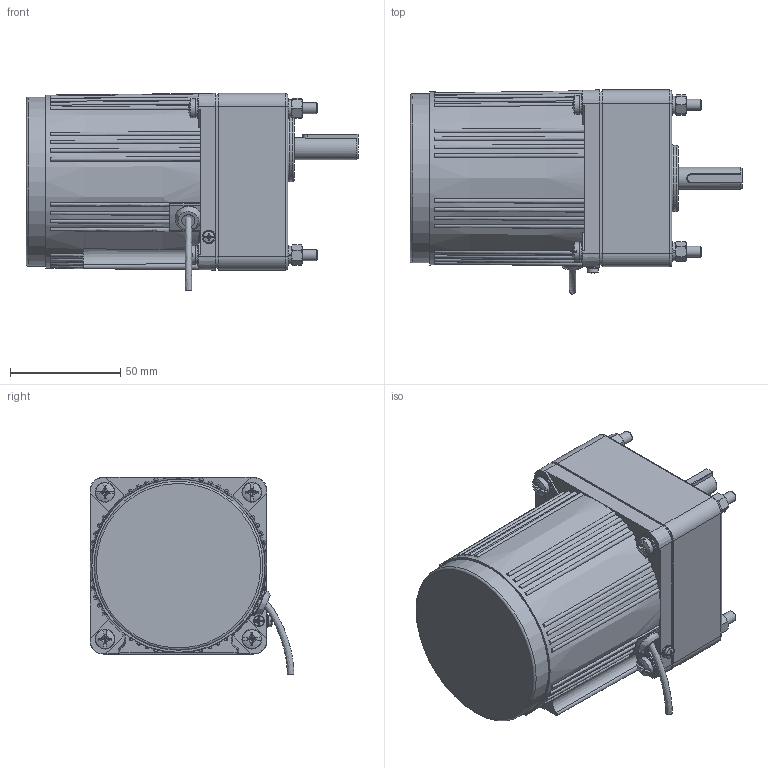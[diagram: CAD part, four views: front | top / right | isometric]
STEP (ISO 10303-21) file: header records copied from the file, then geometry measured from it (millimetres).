
FILE_DESCRIPTION(/* description */ (''),/* implementation_level */ '2;1');
FILE_NAME(/* name */ '4RK25-30CC-4GN3-20K-C·10T.stp',/* time_stamp */ '2024-11-02T11:03:31+08:00',/* author */ (''),/* organization */ (''),/* preprocessor_version */ 'ST-DEVELOPER v18.102',/* originating_system */ 'SIEMENS PLM Software NX 2027',/* authorisation */ '');
FILE_SCHEMA (('AP203_CONFIGURATION_CONTROLLED_3D_DESIGN_OF_MECHANICAL_PARTS_AND_ASSEMBLIES_MIM_LF { 1 0 10303 403 2 1 2}'));
Length unit declared in the file: millimetre
Products named in the file (1): 4RK25-30CC-4GN3-20K-C·10T_stp_objects
Bounding box: 150.3 x 92.25 x 89.33 mm (x, y, z)
Volume: 640373.7 mm3; surface area: 81552.1 mm2
Topology: 20 solids, 21 shells, 881 faces, 2217 edges, 1426 vertices
Faces by surface type: plane 305, bspline 236, cylinder 151, cone 126, torus 44, sphere 14, revolution 5
Full cylindrical faces by diameter (mm): 2.6 x1, 2.7 x1, 3.2 x1, 4 x1, 4.351 x4, 4.4 x1, 4.6 x4, 5 x5, 5.1 x1, 5.3 x8, 6 x10, 6.5 x4, 8.2 x1, 8.5 x4, 9 x8, 10 x1, 10.5 x1, 19 x1, 26 x1, 30 x1, 56 x1, 67 x1, 75 x2, 76.5 x1, 77.5 x1
Entity records: 32432 total; most frequent: CARTESIAN_POINT 14309, ORIENTED_EDGE 4076, DIRECTION 2755, EDGE_CURVE 2038, VERTEX_POINT 1370, AXIS2_PLACEMENT_3D 1163, EDGE_LOOP 1091, B_SPLINE_CURVE_WITH_KNOTS 1085
